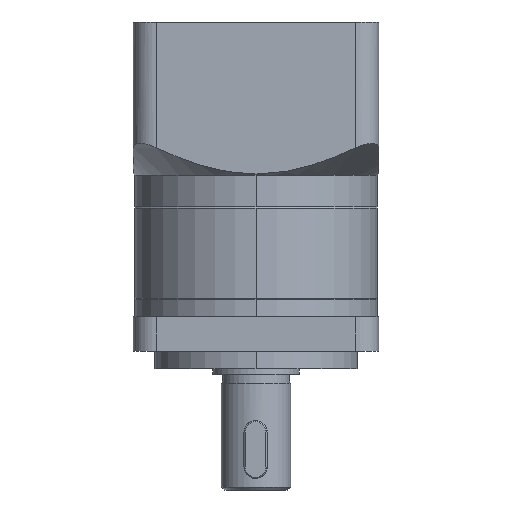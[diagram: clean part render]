
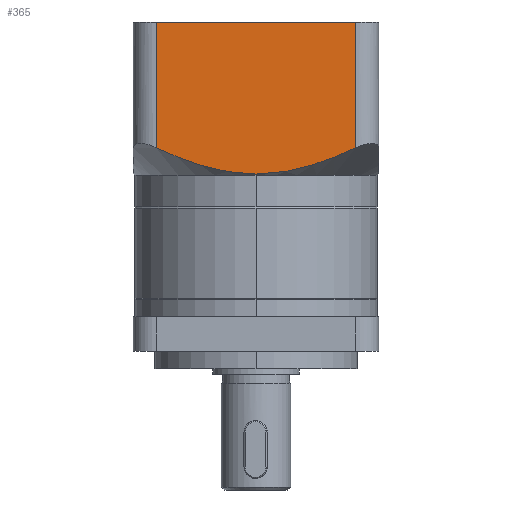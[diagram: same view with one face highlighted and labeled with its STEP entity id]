
A CAD part, left-side view. The second image highlights one B-rep face of the part: STEP entity #365.
In plain terms, the highlighted planar face has unit normal (-1, 0, 0).
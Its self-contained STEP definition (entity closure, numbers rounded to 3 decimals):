
#13 = CARTESIAN_POINT ( 'NONE',  ( -21.25, -1.517, 7.216 ) ) ;
#55 = CARTESIAN_POINT ( 'NONE',  ( -21.25, 0., 7.186 ) ) ;
#269 = CARTESIAN_POINT ( 'NONE',  ( -21.25, 17.25, 33.5 ) ) ;
#326 = EDGE_CURVE ( 'NONE', #2580, #5164, #1730, .T. ) ;
#365 = ADVANCED_FACE ( 'NONE', ( #8152 ), #5445, .F. ) ;
#467 = EDGE_LOOP ( 'NONE', ( #4257, #1353, #7835, #5375, #1758 ) ) ;
#530 = VECTOR ( 'NONE', #1776, 1000. ) ;
#548 = B_SPLINE_CURVE_WITH_KNOTS ( 'NONE', 3,
 ( #7282, #7256, #2685, #2626, #8628, #7311, #7990, #6702, #4560, #13, #6586, #4680 ),
 .UNSPECIFIED., .F., .F.,
 ( 4, 2, 2, 2, 2, 4 ),
 ( 0.028, 0.033, 0.037, 0.042, 0.044, 0.046 ),
 .UNSPECIFIED. ) ;
#735 = CARTESIAN_POINT ( 'NONE',  ( -21.25, 17.25, 11.732 ) ) ;
#743 = LINE ( 'NONE', #5753, #530 ) ;
#1017 = CARTESIAN_POINT ( 'NONE',  ( -21.25, 15.903, 11.101 ) ) ;
#1353 = ORIENTED_EDGE ( 'NONE', *, *, #326, .T. ) ;
#1419 = CARTESIAN_POINT ( 'NONE',  ( -21.25, 17.25, 33.5 ) ) ;
#1617 = CARTESIAN_POINT ( 'NONE',  ( -21.25, 7.415, 8.09 ) ) ;
#1730 = LINE ( 'NONE', #1419, #8580 ) ;
#1758 = ORIENTED_EDGE ( 'NONE', *, *, #3163, .T. ) ;
#1776 = DIRECTION ( 'NONE',  ( 0., 0., 1. ) ) ;
#2018 = CARTESIAN_POINT ( 'NONE',  ( -21.25, -17.25, 11.732 ) ) ;
#2580 = VERTEX_POINT ( 'NONE', #269 ) ;
#2626 = CARTESIAN_POINT ( 'NONE',  ( -21.25, -11.716, 9.405 ) ) ;
#2685 = CARTESIAN_POINT ( 'NONE',  ( -21.25, -14.506, 10.493 ) ) ;
#3027 = CARTESIAN_POINT ( 'NONE',  ( -21.25, 17.25, 11.732 ) ) ;
#3163 = EDGE_CURVE ( 'NONE', #6342, #4424, #743, .T. ) ;
#3395 = EDGE_CURVE ( 'NONE', #6342, #7951, #548, .T. ) ;
#3431 = DIRECTION ( 'NONE',  ( 0., 1., 0. ) ) ;
#3483 = CARTESIAN_POINT ( 'NONE',  ( -21.25, 0., 7.186 ) ) ;
#3486 = DIRECTION ( 'NONE',  ( 1., 0., 0. ) ) ;
#3563 = CARTESIAN_POINT ( 'NONE',  ( -21.25, 10.313, 8.94 ) ) ;
#3807 = B_SPLINE_CURVE_WITH_KNOTS ( 'NONE', 3,
 ( #3483, #6877, #6908, #4996, #1617, #6945, #3563, #4296, #5638, #8334, #1017, #3027 ),
 .UNSPECIFIED., .F., .F.,
 ( 4, 2, 2, 2, 2, 4 ),
 ( 0.046, 0.051, 0.055, 0.057, 0.059, 0.064 ),
 .UNSPECIFIED. ) ;
#4257 = ORIENTED_EDGE ( 'NONE', *, *, #8444, .F. ) ;
#4264 = CARTESIAN_POINT ( 'NONE',  ( -21.25, -17.25, 33.5 ) ) ;
#4296 = CARTESIAN_POINT ( 'NONE',  ( -21.25, 11.74, 9.428 ) ) ;
#4424 = VERTEX_POINT ( 'NONE', #4264 ) ;
#4560 = CARTESIAN_POINT ( 'NONE',  ( -21.25, -3.026, 7.335 ) ) ;
#4680 = CARTESIAN_POINT ( 'NONE',  ( -21.25, 0., 7.186 ) ) ;
#4996 = CARTESIAN_POINT ( 'NONE',  ( -21.25, 5.953, 7.758 ) ) ;
#5023 = LINE ( 'NONE', #7244, #5238 ) ;
#5164 = VERTEX_POINT ( 'NONE', #735 ) ;
#5238 = VECTOR ( 'NONE', #5927, 1000. ) ;
#5334 = EDGE_CURVE ( 'NONE', #7951, #5164, #3807, .T. ) ;
#5375 = ORIENTED_EDGE ( 'NONE', *, *, #3395, .F. ) ;
#5445 = PLANE ( 'NONE',  #5485 ) ;
#5485 = AXIS2_PLACEMENT_3D ( 'NONE', #6828, #3486, #3431 ) ;
#5638 = CARTESIAN_POINT ( 'NONE',  ( -21.25, 12.444, 9.688 ) ) ;
#5753 = CARTESIAN_POINT ( 'NONE',  ( -21.25, -17.25, 33.5 ) ) ;
#5927 = DIRECTION ( 'NONE',  ( 0., -1., 0. ) ) ;
#6342 = VERTEX_POINT ( 'NONE', #2018 ) ;
#6586 = CARTESIAN_POINT ( 'NONE',  ( -21.25, -0.755, 7.186 ) ) ;
#6702 = CARTESIAN_POINT ( 'NONE',  ( -21.25, -3.773, 7.424 ) ) ;
#6828 = CARTESIAN_POINT ( 'NONE',  ( -21.25, 21.25, 33.5 ) ) ;
#6877 = CARTESIAN_POINT ( 'NONE',  ( -21.25, 1.508, 7.186 ) ) ;
#6908 = CARTESIAN_POINT ( 'NONE',  ( -21.25, 3., 7.306 ) ) ;
#6945 = CARTESIAN_POINT ( 'NONE',  ( -21.25, 9.59, 8.712 ) ) ;
#7244 = CARTESIAN_POINT ( 'NONE',  ( -21.25, 21.25, 33.5 ) ) ;
#7256 = CARTESIAN_POINT ( 'NONE',  ( -21.25, -15.889, 11.095 ) ) ;
#7282 = CARTESIAN_POINT ( 'NONE',  ( -21.25, -17.25, 11.732 ) ) ;
#7311 = CARTESIAN_POINT ( 'NONE',  ( -21.25, -7.445, 8.098 ) ) ;
#7435 = DIRECTION ( 'NONE',  ( 0., 0., -1. ) ) ;
#7835 = ORIENTED_EDGE ( 'NONE', *, *, #5334, .F. ) ;
#7951 = VERTEX_POINT ( 'NONE', #55 ) ;
#7990 = CARTESIAN_POINT ( 'NONE',  ( -21.25, -5.993, 7.766 ) ) ;
#8152 = FACE_OUTER_BOUND ( 'NONE', #467, .T. ) ;
#8334 = CARTESIAN_POINT ( 'NONE',  ( -21.25, 14.536, 10.505 ) ) ;
#8444 = EDGE_CURVE ( 'NONE', #2580, #4424, #5023, .T. ) ;
#8580 = VECTOR ( 'NONE', #7435, 1000. ) ;
#8628 = CARTESIAN_POINT ( 'NONE',  ( -21.25, -10.306, 8.917 ) ) ;
